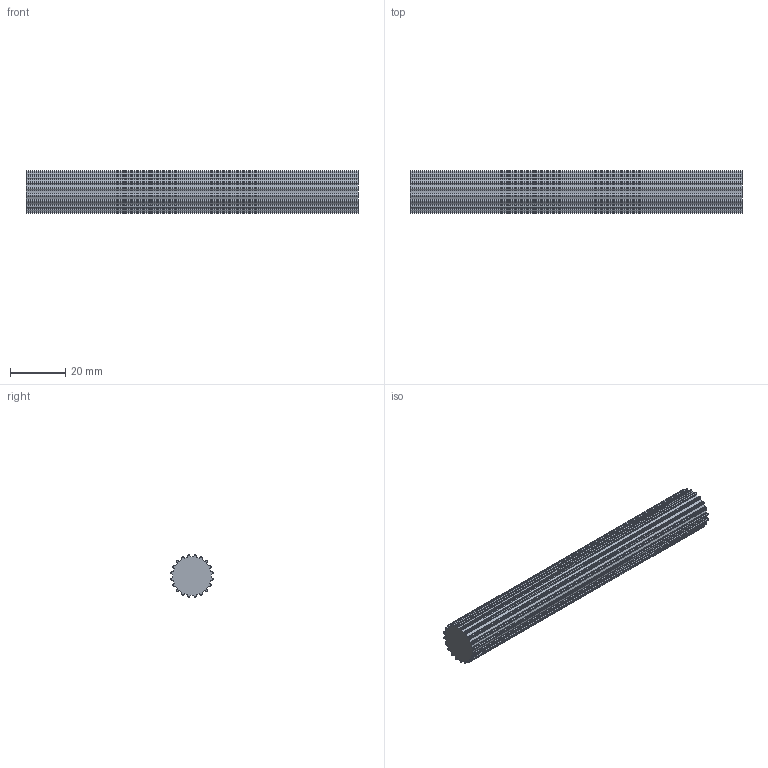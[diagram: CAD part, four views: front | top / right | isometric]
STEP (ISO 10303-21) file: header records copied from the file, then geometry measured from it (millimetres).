
FILE_DESCRIPTION( ( 'STEP AP214' ), '1' );
FILE_NAME( 'C:/Users/StangenbergN/Documents/CAD_Step/1/16092000.stp', '2019-07-25T19:41:07', ( '' ), ( '' ), ' ', 'PARTsolutions', ' ' );
FILE_SCHEMA( ( 'AUTOMOTIVE_DESIGN { 1 0 10303 214 1 1 1 1 }' ) );
Length unit declared in the file: millimetre
Products named in the file (1): _16092000
Bounding box: 120 x 15.26 x 15.26 mm (x, y, z)
Volume: 19719.9 mm3; surface area: 7952.2 mm2
Topology: 1 solids, 1 shells, 162 faces, 480 edges, 320 vertices
Faces by surface type: cylinder 100, plane 62
Entity records: 6816 total; most frequent: DIRECTION 1006, CARTESIAN_POINT 963, ORIENTED_EDGE 960, EDGE_CURVE 480, AXIS2_PLACEMENT_3D 363, VERTEX_POINT 320, LINE 280, VECTOR 280
